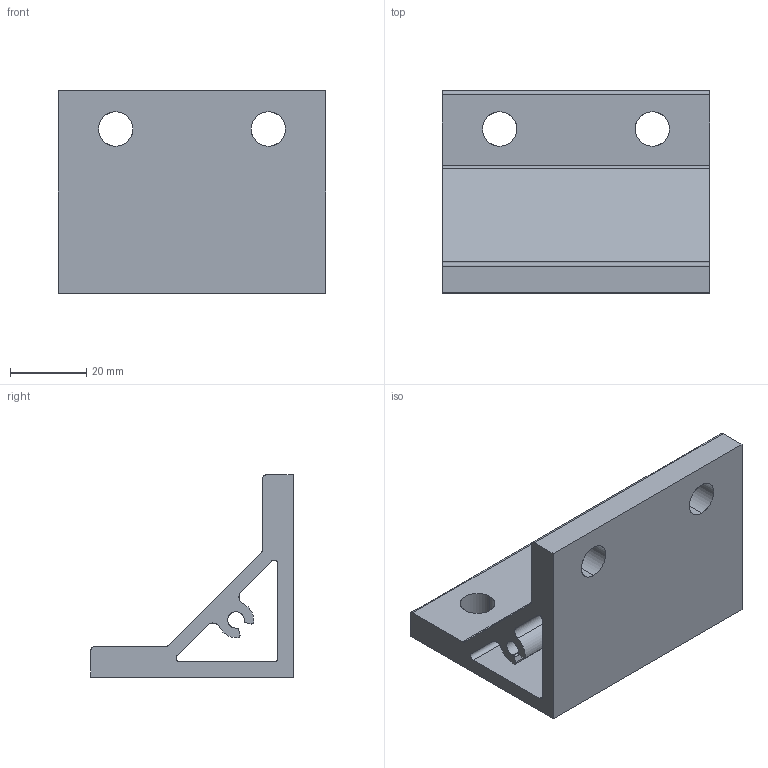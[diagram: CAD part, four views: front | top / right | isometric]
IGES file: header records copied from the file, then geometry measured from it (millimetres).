
Start section: SolidWorks IGES file using analytic representation for surfaces
Global section: file name: C:\Users\admin\Desktop\IGES\J4ARWN.igs; native system: SolidWorks 2014; preprocessor: SolidWorks 2014; author: admin_pc; date: 170524.165629; units: millimetre
Bounding box: 70 x 53 x 53 mm (x, y, z)
Surface area: 23634.2 mm2 (no closed solid volume)
Topology: 0 solids, 0 shells, 44 faces, 702 edges, 702 vertices
Faces by surface type: revolution 29, bspline 15
